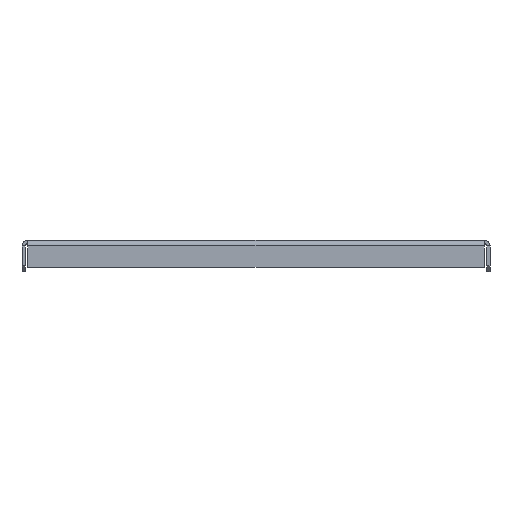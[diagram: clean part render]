
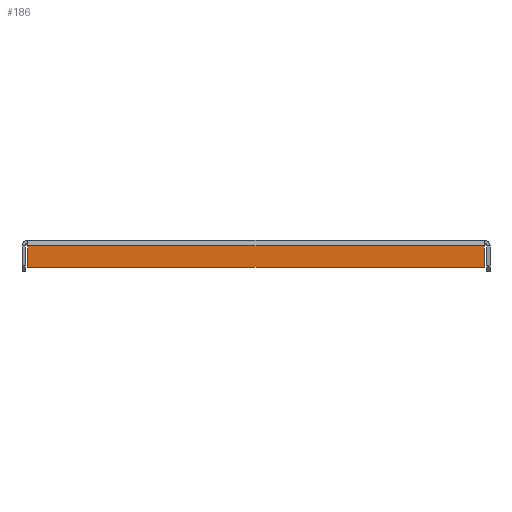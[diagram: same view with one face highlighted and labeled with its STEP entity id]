
A CAD part, front view. The second image highlights one B-rep face of the part: STEP entity #186.
In plain terms, the highlighted planar face has unit normal (0, -1, 0).
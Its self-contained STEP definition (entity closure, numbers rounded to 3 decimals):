
#186=ADVANCED_FACE('',(#1848),#1850,.T.);
#1848=FACE_BOUND('',#1849,.T.);
#1849=EDGE_LOOP('',(#3013,#3014,#3015,#3016));
#1850=PLANE('',#1851);
#1851=AXIS2_PLACEMENT_3D('',#1852,#1853,#1854);
#1852=CARTESIAN_POINT('',(0.,-298.5,0.));
#1853=DIRECTION('',(0.,-1.,0.));
#1854=DIRECTION('',(0.,0.,-1.));
#3013=ORIENTED_EDGE('',*,*,#3695,.F.);
#3014=ORIENTED_EDGE('',*,*,#3689,.T.);
#3015=ORIENTED_EDGE('',*,*,#3691,.F.);
#3016=ORIENTED_EDGE('',*,*,#3697,.F.);
#3689=EDGE_CURVE('',#4468,#4475,#4479,.T.);
#3691=EDGE_CURVE('',#4481,#4475,#4482,.T.);
#3695=EDGE_CURVE('',#4468,#4488,#4489,.T.);
#3697=EDGE_CURVE('',#4488,#4481,#4491,.T.);
#4468=VERTEX_POINT('',#6198);
#4475=VERTEX_POINT('',#6218);
#4479=LINE('',#6229,#6230);
#4481=VERTEX_POINT('',#6235);
#4482=LINE('',#6236,#6237);
#4488=VERTEX_POINT('',#6250);
#4489=LINE('',#6251,#6252);
#4491=LINE('',#6257,#6258);
#6198=CARTESIAN_POINT('',(139.1,-298.5,-3.4));
#6218=CARTESIAN_POINT('',(-139.1,-298.5,-3.4));
#6229=CARTESIAN_POINT('',(139.1,-298.5,-3.4));
#6230=VECTOR('',#6231,1.);
#6231=DIRECTION('',(-1.,0.,0.));
#6235=CARTESIAN_POINT('',(-139.1,-298.5,-16.4));
#6236=CARTESIAN_POINT('',(-139.1,-298.5,-16.4));
#6237=VECTOR('',#6238,1.);
#6238=DIRECTION('',(0.,0.,1.));
#6250=CARTESIAN_POINT('',(139.1,-298.5,-16.4));
#6251=CARTESIAN_POINT('',(139.1,-298.5,-3.4));
#6252=VECTOR('',#6253,1.);
#6253=DIRECTION('',(0.,0.,-1.));
#6257=CARTESIAN_POINT('',(139.1,-298.5,-16.4));
#6258=VECTOR('',#6259,1.);
#6259=DIRECTION('',(-1.,0.,0.));
